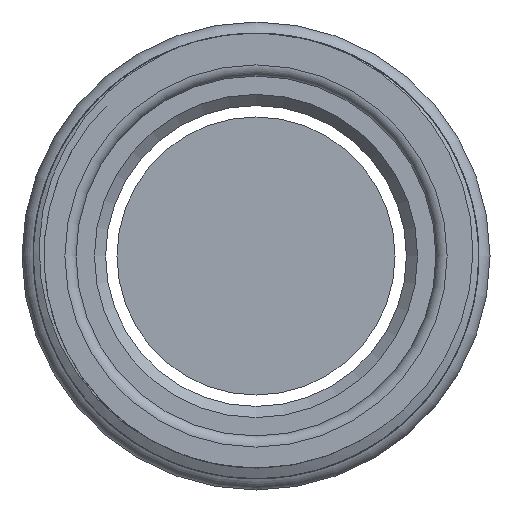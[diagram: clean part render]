
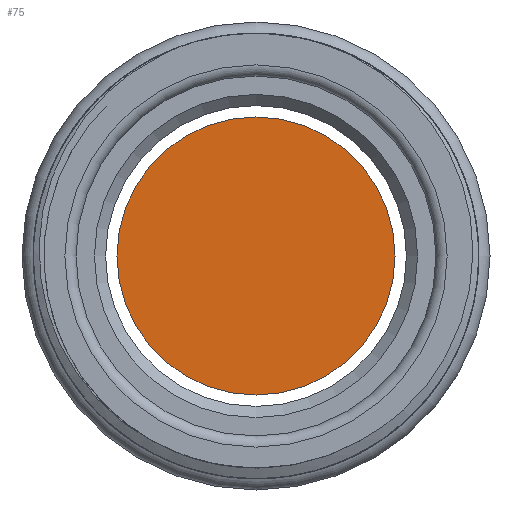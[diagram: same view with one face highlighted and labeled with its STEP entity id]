
A CAD part, front view. The second image highlights one B-rep face of the part: STEP entity #75.
In plain terms, the highlighted planar face has unit normal (0, -1, 0).
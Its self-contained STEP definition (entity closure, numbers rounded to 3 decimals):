
#60=PLANE('',#326);
#68=FACE_OUTER_BOUND('',#144,.T.);
#75=ADVANCED_FACE('',(#68),#60,.F.);
#144=EDGE_LOOP('',(#186));
#186=ORIENTED_EDGE('',*,*,#270,.F.);
#244=VERTEX_POINT('',#459);
#270=EDGE_CURVE('',#244,#244,#300,.T.);
#300=CIRCLE('',#323,12.475);
#323=AXIS2_PLACEMENT_3D('',#458,#369,#370);
#326=AXIS2_PLACEMENT_3D('',#463,#375,#376);
#369=DIRECTION('',(0.,1.,0.));
#370=DIRECTION('',(1.,0.,0.));
#375=DIRECTION('',(0.,1.,0.));
#376=DIRECTION('',(0.,0.,1.));
#458=CARTESIAN_POINT('',(0.,-10.,0.));
#459=CARTESIAN_POINT('',(12.475,-10.,0.));
#463=CARTESIAN_POINT('',(0.,-10.,0.));
